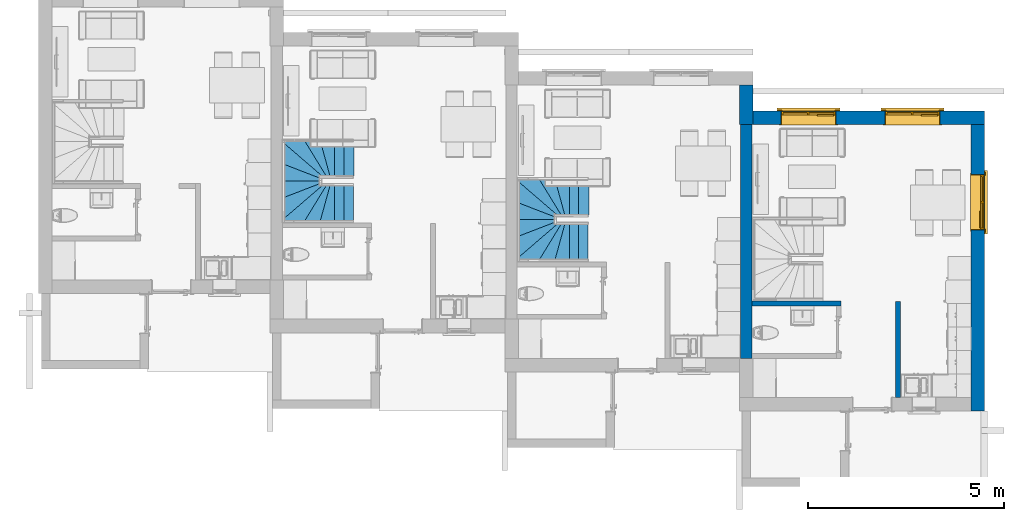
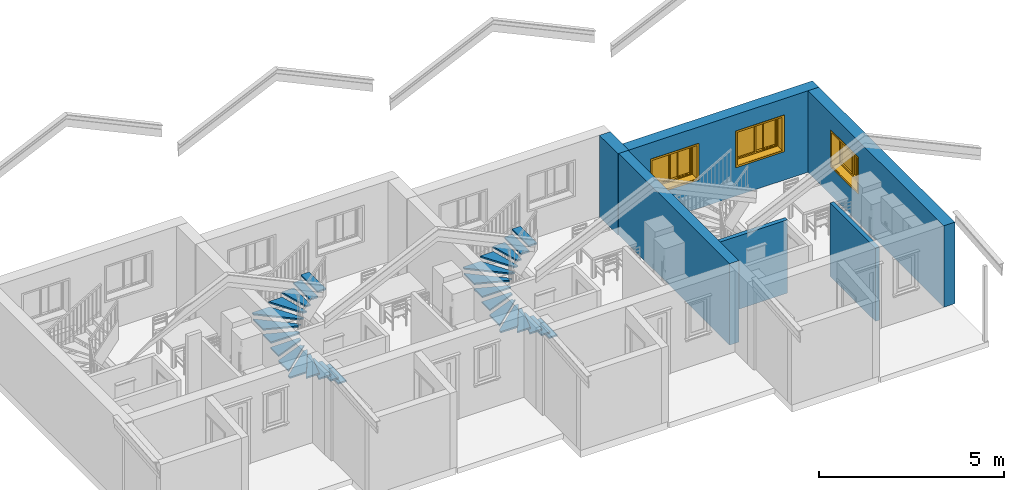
# One storey, part 23 of 65: 6 walls, 3 windows, 2 stair flights, 3 openings, 2 elements without a shape of their own.
"""IFC2X3 building model written with IfcOpenShell, lengths in millimetres."""

from ifc_helpers import new_model, entity, si_unit, converted_unit, direction, frame, frame_2d, origin, origin_2d_with_axis, place, context, subcontext, project, spatial, polyline, rectangle, outline, extrude, faceted_brep, source, transform, mapped, material, material_list, layer, layer_set, layer_usage, type_object, type_shapes, element, fill, aggregate, save


model = new_model("IFC2X3")

# Units and contexts
model_context = context("Model", 3, precision=0.01, world=origin(), true_north=direction((0.0, 1.0)))
body_context = subcontext(model_context, "Body", "Model", "MODEL_VIEW")
ifc_project = project(units=[si_unit("LENGTHUNIT", "METRE", prefix="MILLI"), si_unit("AREAUNIT", "SQUARE_METRE"), si_unit("VOLUMEUNIT", "CUBIC_METRE"), converted_unit("PLANEANGLEUNIT", "DEGREE", entity("IfcPlaneAngleMeasure", 0.017453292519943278), si_unit("PLANEANGLEUNIT", "RADIAN"), dimensions=[0, 0, 0, 0, 0, 0, 0])], contexts=[model_context])

# Site, building, storey
site_placement = place(None, origin())
site = spatial("IfcSite", under=ifc_project, at=site_placement, Name="Default", CompositionType="ELEMENT")
building_placement = place(site_placement, origin())
building = spatial("IfcBuilding", under=site, at=building_placement, CompositionType="ELEMENT")
storey_placement = place(building_placement, origin())
storey = spatial("IfcBuildingStorey", under=building, at=storey_placement, Name="Et. 1", CompositionType="ELEMENT", Elevation=0.0)

# Wall
ifc_material_1 = material(Name="Vegg - Stående Kledning_smal - HVIT")
ifc_layer_1 = layer(ifc_material_1, 19.0)
ifc_material_2 = material(Name="Vegg - Utlekting")
ifc_layer_2 = layer(ifc_material_2, 36.0)
ifc_layer_3 = layer(ifc_material_2, 23.0)
ifc_material_3 = material(Name="Vegg - Gips - GU")
ifc_layer_4 = layer(ifc_material_3, 9.0)
ifc_material_4 = material(Name="Vegg - Stender - Isolert")
ifc_layer_5 = layer(ifc_material_4, 198.0)
ifc_material_5 = material(Name="Vegg - Påforing - Isolert")
ifc_layer_6 = layer(ifc_material_5, 48.0)
ifc_material_6 = material(Name="Vegg - Gips - Hvit")
ifc_layer_7 = layer(ifc_material_6, 13.000000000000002)
ifc_layer_set_1 = layer_set([ifc_layer_1, ifc_layer_2, ifc_layer_3, ifc_layer_4, ifc_layer_5, ifc_layer_6, ifc_layer_7], Name="Basic Wall:23-Kv(sm)TIG-19_36_23_9_198_48_13")
ifc_layer_usage_1 = layer_usage(ifc_layer_set_1, "AXIS2", "NEGATIVE", 173.0)
wall_type_1 = type_object("IfcWallType", Name="Basic Wall:23-Kv(sm)TIG-19_36_23_9_198_48_13", PredefinedType="STANDARD", material=ifc_layer_set_1)
wall_1_placement = place(storey_placement, frame((28178.009586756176, 16736.18095768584, 0.0), z_axis=(0.0, 0.0, 1.0), x_axis=(0.0, -1.0, 0.0)))
element("IfcWallStandardCase", 1, at=wall_1_placement, inside=storey, type_object=wall_type_1, material=ifc_layer_usage_1, Name="Basic Wall:23-Kv(sm)TIG-19_36_23_9_198_48_13", context=body_context, shape_type="SweptSolid", body=[
    extrude(rectangle(XDim=1000.0000000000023, YDim=345.9999999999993, at=frame_2d((500.00000000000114, 0.0), x_axis=(-1.0, 0.0))), origin(), (0.0, 0.0, 1.0), 2681.0),
])

# Wall, openings, windows
ifc_layer_usage_2 = layer_usage(ifc_layer_set_1, "AXIS2", "NEGATIVE", 173.0)
wall_2_placement = place(storey_placement, frame((28351.009586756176, 15909.180957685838, 0.0)))
wall_2 = element("IfcWallStandardCase", 2, at=wall_2_placement, inside=storey, type_object=wall_type_1, material=ifc_layer_usage_2, Name="Basic Wall:23-Kv(sm)TIG-19_36_23_9_198_48_13", context=body_context, shape_type="SweptSolid", body=[
    extrude(rectangle(XDim=5913.999999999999, YDim=345.9999999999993, at=frame_2d((2956.9999999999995, 2.984279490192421e-13), x_axis=(-1.0, 0.0))), origin(), (0.0, 0.0, 1.0), 2681.0),
])
opening_1_placement = place(wall_2_placement, frame((3371.0, -173.0, 990.0)))
opening_1 = element("IfcOpeningElement", 3, at=opening_1_placement, cuts=wall_2, Name="2 ruter vert-post åpning-fast m omramming:14x11M:1", ObjectType="Opening", context=body_context, shape_type="SweptSolid", body=[
    extrude(rectangle(XDim=1410.0000000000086, YDim=1109.9999999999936, at=frame_2d((554.9999999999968, 705.0000000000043), x_axis=(0.0, -1.0))), frame((0.0, 0.0, 0.0), z_axis=(0.0, 1.0, 0.0), x_axis=(0.0, 0.0, 1.0)), (0.0, 0.0, 1.0), 346.0),
])
opening_2_placement = place(wall_2_placement, frame((713.0, -173.0, 990.0)))
opening_2 = element("IfcOpeningElement", 4, at=opening_2_placement, cuts=wall_2, Name="2 ruter vert-post åpning-fast m omramming:14x11M:1", ObjectType="Opening", context=body_context, shape_type="SweptSolid", body=[
    extrude(rectangle(XDim=1410.0000000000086, YDim=1109.9999999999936, at=frame_2d((554.9999999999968, 705.0000000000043), x_axis=(0.0, -1.0))), frame((0.0, 0.0, 0.0), z_axis=(0.0, 1.0, 0.0), x_axis=(0.0, 0.0, 1.0)), (0.0, 0.0, 1.0), 346.0),
])
ifc_material_7 = material(Name="Omramming")
ifc_material_8 = material(Name="Glass - Klart")
ifc_material_9 = material(Name="Karm")
ifc_material_list = material_list([ifc_material_7, ifc_material_8, ifc_material_9])
window_style = type_object("IfcWindowStyle", Name="2 ruter vert-post åpning-fast m omramming:14x11M", ConstructionType="NOTDEFINED", OperationType="NOTDEFINED", ParameterTakesPrecedence=False, Sizeable=False, material=ifc_material_list)
shared_shape = source(origin(), body_context, "Body", "Brep", [
    faceted_brep([(-73.0, 368.0, 1199.153701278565), (25.0, 368.0, 1199.153701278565), (25.0, 368.0, 4.105117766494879), (-73.0, 368.0, 4.105117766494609), (1385.0, 346.0, -110.0), (1483.0, 346.0, -110.0), (1483.0, 346.0, -12.776075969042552), (1513.0, 346.0, -12.776075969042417), (1513.0, 346.0, 10.0), (1483.0, 346.0, 10.0), (1483.0, 346.0, 1199.153701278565), (1385.0, 346.0, 1199.153701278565), (1385.0, 346.0, 10.0), (25.0, 346.0, 10.0), (25.0, 346.0, 1199.153701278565), (-73.0, 346.0, 1199.153701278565), (-73.0, 346.0, 10.0), (-103.0, 346.0, 10.0), (-103.0, 346.0, -12.776075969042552), (-73.0, 346.0, -12.776075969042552), (-73.0, 346.0, -110.0), (25.0, 346.0, -110.0), (25.0, 346.0, -12.776075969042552), (1385.0, 346.0, -12.776075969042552), (1483.0, 368.0, 1199.153701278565), (1385.0, 368.0, 1199.153701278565), (1483.0, 368.0, 4.105117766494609), (1385.0, 368.0, -110.0), (1483.0, 368.0, -110.0), (1385.0, 368.0, 4.105117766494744), (-73.0, 368.0, -110.0), (25.0, 368.0, -110.0), (-103.0, 413.6148078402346, -30.89340912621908), (-103.0, 419.3088268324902, -9.643040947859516), (1513.0, 413.6148078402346, -30.89340912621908), (1513.0, 419.3088268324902, -9.643040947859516), (1483.0, 368.0, -18.670958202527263), (1385.0, 368.0, -18.670958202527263), (25.0, 368.0, -18.670958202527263), (-73.0, 368.0, -18.670958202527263)], [[[0, 1, 2, 3]], [[4, 5, 6, 7, 8, 9, 10, 11, 12, 13, 14, 15, 16, 17, 18, 19, 20, 21, 22, 23]], [[24, 25, 11, 10]], [[24, 10, 9, 26]], [[27, 28, 5, 4]], [[11, 25, 29, 12]], [[1, 0, 15, 14]], [[1, 14, 13, 2]], [[30, 31, 21, 20]], [[15, 0, 3, 16]], [[32, 18, 17, 33]], [[34, 35, 8, 7]], [[18, 32, 34, 7, 6, 36, 37, 23, 22, 38, 39, 19]], [[33, 17, 16, 3, 2, 13, 12, 29, 26, 9, 8, 35]], [[32, 33, 35, 34]], [[30, 20, 19, 39]], [[21, 31, 38, 22]], [[27, 4, 23, 37]], [[5, 28, 36, 6]], [[31, 30, 39, 38]], [[25, 24, 26, 29]], [[28, 27, 37, 36]]]),
    faceted_brep([(1513.0, 413.52687511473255, 1180.8011105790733), (1513.0, 418.4444369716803, 1199.153701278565), (1513.0, 346.0, 1218.5651296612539), (1513.0, 346.0, 1198.894882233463), (-103.0, 413.52687511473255, 1180.8011105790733), (-103.0, 346.0, 1198.894882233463), (-103.0, 346.0, 1218.5651296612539), (-103.0, 418.4444369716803, 1199.153701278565)], [[[0, 1, 2, 3]], [[4, 5, 6, 7]], [[1, 0, 4, 7]], [[2, 1, 7, 6]], [[3, 2, 6, 5]], [[0, 3, 5, 4]]]),
    faceted_brep([(25.0, 368.0, 1193.0), (1385.0, 368.0, 1193.0), (1385.0, 368.0, 1095.0), (25.0, 368.0, 1095.0), (25.0, 346.0, 1193.0), (25.0, 346.0, 1095.0), (1385.0, 346.0, 1095.0), (1385.0, 346.0, 1193.0)], [[[0, 1, 2, 3]], [[4, 5, 6, 7]], [[1, 0, 4, 7]], [[2, 1, 7, 6]], [[3, 2, 6, 5]], [[0, 3, 5, 4]]]),
    faceted_brep([(1385.0, 368.0, -20.0), (25.0, 368.0, -20.0), (25.0, 346.0, -20.0), (1385.0, 346.0, -20.0), (1385.0, 368.0, -92.0), (1385.0, 346.0, -92.0), (25.0, 368.0, -92.0), (25.0, 346.0, -92.0)], [[[0, 1, 2, 3]], [[4, 0, 3, 5]], [[6, 4, 5, 7]], [[1, 6, 7, 2]], [[2, 7, 5, 3]], [[1, 0, 4, 6]]]),
    faceted_brep([(1345.0, 288.49999999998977, 65.0), (1345.0, 288.4999999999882, 1045.0), (735.0, 288.4999999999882, 1045.0), (735.0, 288.49999999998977, 65.0), (1345.0, 313.49999999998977, 65.0), (735.0, 313.49999999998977, 65.0), (735.0, 313.4999999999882, 1045.0), (1345.0, 313.4999999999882, 1045.0)], [[[0, 1, 2, 3]], [[4, 5, 6, 7]], [[1, 0, 4, 7]], [[2, 1, 7, 6]], [[3, 2, 6, 5]], [[0, 3, 5, 4]]]),
    faceted_brep([(720.0, 331.0, 50.0), (720.0, 331.0, 1060.0), (720.0, 239.0, 1060.0), (720.0, 239.0, 50.0), (1400.0, 239.0, 10.0), (1400.0, 239.0, 1100.0), (10.0, 239.0, 1100.0), (10.0, 239.0, 10.0), (680.0, 239.0, 1060.0), (680.0, 239.0, 50.0), (50.0, 239.0, 50.0), (50.0, 239.0, 1060.0), (925.0, 239.0, 1060.0), (1360.0, 239.0, 1060.0), (1360.0, 239.0, 50.0), (925.0, 239.0, 50.0), (680.0, 331.0, 1060.0), (680.0, 331.0, 50.0), (1360.0, 331.0, 50.0), (1360.0, 331.0, 1060.0), (50.0, 331.0, 1060.0), (50.0, 331.0, 50.0), (1400.0, 331.0, 1100.0), (1400.0, 331.0, 10.0), (10.0, 331.0, 10.0), (10.0, 331.0, 1100.0), (1360.0, 248.0, 50.0), (1360.0, 248.0, 1060.0), (925.0, 248.0, 1060.0), (940.0, 216.0, 65.0), (940.0, 248.0, 65.0), (940.0, 248.0, 1045.0), (940.0, 216.0, 1045.0), (1345.0, 248.0, 1045.0), (1345.0, 216.0, 1045.0), (1345.0, 248.0, 65.0), (1345.0, 216.0, 65.0), (925.0, 248.0, 50.0), (925.0, 216.0, 50.0), (925.0, 216.0, 1060.0), (1360.0, 216.0, 1060.0), (1360.0, 216.0, 50.0)], [[[0, 1, 2, 3]], [[4, 5, 6, 7], [8, 9, 10, 11], [3, 2, 12, 13, 14, 15]], [[9, 8, 16, 17]], [[1, 0, 18, 19], [17, 16, 20, 21], [22, 23, 24, 25]], [[4, 23, 22, 5]], [[19, 18, 26, 27]], [[5, 22, 25, 6]], [[1, 19, 27, 28, 12, 2]], [[6, 25, 24, 7]], [[20, 11, 10, 21]], [[23, 4, 7, 24]], [[21, 10, 9, 17]], [[29, 30, 31, 32]], [[32, 31, 33, 34]], [[34, 33, 35, 36]], [[30, 29, 36, 35]], [[31, 30, 35, 33], [37, 28, 27, 26]], [[38, 39, 12, 28, 37, 15]], [[39, 40, 13, 12]], [[40, 41, 14, 13]], [[29, 32, 34, 36], [39, 38, 41, 40]], [[41, 38, 15, 14]], [[18, 0, 3, 15, 37, 26]], [[11, 20, 16, 8]]], outer=[[True], [True, False, False], [True], [False, False, True], [True], [True], [True], [True], [True], [True], [True], [True], [True], [True], [True], [True], [False, True], [True], [True], [True], [False, True], [True], [True], [True]]),
    faceted_brep([(680.0, 288.49999999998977, 50.0), (680.0, 288.4999999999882, 1060.0), (50.0, 288.4999999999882, 1060.0), (50.0, 288.49999999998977, 50.0), (680.0, 313.49999999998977, 50.0), (50.0, 313.49999999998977, 50.0), (50.0, 313.4999999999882, 1060.0), (680.0, 313.4999999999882, 1060.0)], [[[0, 1, 2, 3]], [[4, 5, 6, 7]], [[1, 0, 4, 7]], [[2, 1, 7, 6]], [[3, 2, 6, 5]], [[0, 3, 5, 4]]]),
    faceted_brep([(1410.0, 239.0, 1110.0), (1410.0, 239.0, 0.0), (0.0, 239.0, 0.0), (0.0, 239.0, 1110.0), (10.0, 239.0, 10.0), (1400.0, 239.0, 10.0), (1400.0, 239.0, 1100.0), (10.0, 239.0, 1100.0), (1410.0, 0.0, 1110.0), (0.0, 0.0, 1110.0), (0.0, 0.0, 0.0), (1410.0, 0.0, 0.0), (10.0, 0.0, 10.0), (10.0, 0.0, 1100.0), (1400.0, 0.0, 1100.0), (1400.0, 0.0, 10.0)], [[[0, 1, 2, 3], [4, 5, 6, 7]], [[8, 9, 10, 11], [12, 13, 14, 15]], [[1, 0, 8, 11]], [[2, 1, 11, 10]], [[3, 2, 10, 9]], [[0, 3, 9, 8]], [[5, 4, 12, 15]], [[6, 5, 15, 14]], [[7, 6, 14, 13]], [[4, 7, 13, 12]]]),
    faceted_brep([(1405.0, -12.0, 1105.0), (1405.0, 0.0, 1105.0), (1405.0, 0.0, 5.0), (1405.0, -12.0, 5.0), (1457.0, 0.0, 1157.0), (1457.0, -12.0, 1157.0), (1457.0, -12.0, -47.0), (1457.0, 0.0, -47.0), (5.0, 0.0, 5.0), (5.0, -12.0, 5.0), (-47.0, -12.0, -47.0), (-47.0, 0.0, -47.0), (5.0, 0.0, 1105.0), (5.0, -12.0, 1105.0), (-47.0, -12.0, 1157.0), (-47.0, 0.0, 1157.0)], [[[0, 1, 2, 3]], [[4, 5, 6, 7]], [[3, 2, 8, 9]], [[7, 6, 10, 11]], [[9, 8, 12, 13]], [[11, 10, 14, 15]], [[7, 11, 15, 4], [1, 12, 8, 2]], [[13, 12, 1, 0]], [[3, 9, 13, 0], [5, 14, 10, 6]], [[15, 14, 5, 4]]], outer=[[True], [True], [True], [True], [True], [True], [True, False], [True], [False, True], [True]]),
])
type_shapes(window_style, [shared_shape])
window_1_placement = place(opening_1_placement, origin())
window_1 = element("IfcWindow", 5, at=window_1_placement, inside=storey, type_object=window_style, material=ifc_material_list, Name="2 ruter vert-post åpning-fast m omramming:14x11M", OverallHeight=1109.9999999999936, OverallWidth=1410.0000000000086, context=body_context, shape_type="MappedRepresentation", body=[
    mapped(shared_shape, transform((0.0, 0.0, 0.0), scale=1.0)),
])
fill(opening_1, window_1)
window_2_placement = place(opening_2_placement, origin())
window_2 = element("IfcWindow", 6, at=window_2_placement, inside=storey, type_object=window_style, material=ifc_material_list, Name="2 ruter vert-post åpning-fast m omramming:14x11M", OverallHeight=1109.9999999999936, OverallWidth=1410.0000000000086, context=body_context, shape_type="MappedRepresentation", body=[
    mapped(shared_shape, transform((0.0, 0.0, 0.0), scale=1.0)),
])
fill(opening_2, window_2)

# Wall, opening, window
ifc_layer_usage_3 = layer_usage(ifc_layer_set_1, "AXIS2", "NEGATIVE", 173.0)
wall_3_placement = place(storey_placement, frame((34092.009586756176, 15736.180957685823, 0.0), z_axis=(0.0, 0.0, 1.0), x_axis=(0.0, -1.0, 0.0)))
wall_3 = element("IfcWallStandardCase", 7, at=wall_3_placement, inside=storey, type_object=wall_type_1, material=ifc_layer_usage_3, Name="Basic Wall:23-Kv(sm)TIG-19_36_23_9_198_48_13", context=body_context, shape_type="SweptSolid", body=[
    extrude(rectangle(XDim=7328.000000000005, YDim=345.9999999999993, at=frame_2d((3664.000000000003, 3.126388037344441e-13), x_axis=(-1.0, 0.0))), origin(), (0.0, 0.0, 1.0), 2681.0),
])
opening_3_placement = place(wall_3_placement, frame((1287.0, -173.0, 990.0)))
opening_3 = element("IfcOpeningElement", 8, at=opening_3_placement, cuts=wall_3, Name="2 ruter vert-post åpning-fast m omramming:14x11M:1", ObjectType="Opening", context=body_context, shape_type="SweptSolid", body=[
    extrude(rectangle(XDim=1410.0000000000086, YDim=1109.9999999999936, at=frame_2d((554.9999999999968, 705.0000000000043), x_axis=(0.0, -1.0))), frame((0.0, 0.0, 0.0), z_axis=(0.0, 1.0, 0.0), x_axis=(0.0, 0.0, 1.0)), (0.0, 0.0, 1.0), 346.0),
])
window_3_placement = place(opening_3_placement, origin())
window_3 = element("IfcWindow", 9, at=window_3_placement, inside=storey, type_object=window_style, material=ifc_material_list, Name="2 ruter vert-post åpning-fast m omramming:14x11M", OverallHeight=1109.9999999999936, OverallWidth=1410.0000000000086, context=body_context, shape_type="MappedRepresentation", body=[
    mapped(shared_shape, transform((0.0, 0.0, 0.0), scale=1.0)),
])
fill(opening_3, window_3)

# Walls
ifc_material_10 = material(Name="Vegg - Gips - Innvendig - Hvit")
ifc_layer_8 = layer(ifc_material_10, 13.000000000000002)
ifc_layer_9 = layer(ifc_material_10, 13.000000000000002)
ifc_layer_10 = layer(ifc_material_4, 100.0)
ifc_material_11 = material(Name="Vegg - Luftsjikt")
ifc_layer_11 = layer(ifc_material_11, 40.0)
ifc_layer_12 = layer(ifc_material_4, 100.0)
ifc_layer_13 = layer(ifc_material_10, 13.000000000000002)
ifc_layer_14 = layer(ifc_material_10, 13.000000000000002)
ifc_layer_set_2 = layer_set([ifc_layer_8, ifc_layer_9, ifc_layer_10, ifc_layer_11, ifc_layer_12, ifc_layer_13, ifc_layer_14], Name="Basic Wall:24-GSISIG-26_100_40_100_26")
ifc_layer_usage_4 = layer_usage(ifc_layer_set_2, "AXIS2", "NEGATIVE", 146.00000000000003)
wall_type_2 = type_object("IfcWallType", Name="Basic Wall:24-GSISIG-26_100_40_100_26", PredefinedType="STANDARD", material=ifc_layer_set_2)
wall_4_placement = place(storey_placement, frame((28178.009586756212, 9754.180957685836, 0.0), z_axis=(0.0, 0.0, 1.0), x_axis=(0.0, 1.0, 0.0)))
element("IfcWallStandardCase", 10, at=wall_4_placement, inside=storey, type_object=wall_type_2, material=ifc_layer_usage_4, Name="Basic Wall:24-GSISIG-26_100_40_100_26", context=body_context, shape_type="SweptSolid", body=[
    extrude(rectangle(XDim=5982.000000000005, YDim=292.00000000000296, at=frame_2d((2991.0000000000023, 3.836930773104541e-13), x_axis=(-1.0, 0.0))), origin(), (0.0, 0.0, 1.0), 2681.0),
])
ifc_layer_15 = layer(ifc_material_10, 13.000000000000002)
ifc_material_12 = material(Name="Vegg - Stender - Stål - Isolert")
ifc_layer_16 = layer(ifc_material_12, 100.0)
ifc_layer_17 = layer(ifc_material_10, 13.000000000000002)
ifc_layer_set_3 = layer_set([ifc_layer_15, ifc_layer_16, ifc_layer_17], Name="Basic Wall:24-GSIG-13_100_13")
ifc_layer_usage_5 = layer_usage(ifc_layer_set_3, "AXIS2", "NEGATIVE", 63.00000000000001)
wall_type_3 = type_object("IfcWallType", Name="Basic Wall:24-GSIG-13_100_13", PredefinedType="STANDARD", material=ifc_layer_set_3)
wall_5_placement = place(storey_placement, frame((28324.009586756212, 11156.05871915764, 0.0)))
element("IfcWallStandardCase", 11, at=wall_5_placement, inside=storey, type_object=wall_type_3, material=ifc_layer_usage_5, Name="Basic Wall:24-GSIG-13_100_13", context=body_context, shape_type="SweptSolid", body=[
    extrude(rectangle(XDim=2281.000000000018, YDim=126.00000000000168, at=frame_2d((1140.500000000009, -4.263256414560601e-14), x_axis=(-1.0, 0.0))), origin(), (0.0, 0.0, 1.0), 2413.0),
])
ifc_layer_usage_6 = layer_usage(ifc_layer_set_3, "AXIS2", "NEGATIVE", 63.00000000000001)
wall_6_placement = place(storey_placement, frame((32056.009586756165, 8754.180957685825, 0.0), z_axis=(0.0, 0.0, 1.0), x_axis=(0.0, 1.0, 0.0)))
element("IfcWallStandardCase", 12, at=wall_6_placement, inside=storey, type_object=wall_type_3, material=ifc_layer_usage_6, Name="Basic Wall:24-GSIG-13_100_13", context=body_context, shape_type="SweptSolid", body=[
    extrude(rectangle(XDim=2451.8777614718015, YDim=125.99999999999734, at=frame_2d((1225.9388807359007, 4.618527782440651e-14), x_axis=(-1.0, 0.0))), origin(), (0.0, 0.0, 1.0), 2413.0),
])

# Stair, stair flight
type_product = type_object("IfcTypeProduct", Name="Assembled Stair:Tretrapp - Åpne trinn m/ vanger")
stair_1_placement = place(storey_placement, origin())
stair_1 = element("IfcStair", 13, at=stair_1_placement, inside=storey, type_object=type_product, Name="Assembled Stair:Stair", ShapeType="NOTDEFINED")
ifc_material_13 = material(Name="Focus - Tre")
stair_flight_type = type_object("IfcStairFlightType", Name="Non-Monolithic Run:Tretrinn - 20mm Trinnese", PredefinedType="WINDER")
stair_flight_1_placement = place(stair_1_placement, origin())
stair_flight_1 = element("IfcStairFlight", 14, at=stair_flight_1_placement, type_object=stair_flight_type, material=ifc_material_13, Name="Assembled Stair:Stair:1075790 Run 1", NumberOfRiser=15, NumberOfTreads=14, RiserHeight=0.5863954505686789, TreadLength=0.7874015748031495, context=body_context, shape_type="SweptSolid", body=[
    extrude(rectangle(XDim=259.9999999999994, YDim=899.999999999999, at=frame_2d((-1.0800249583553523e-12, -1.0800249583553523e-12), x_axis=(1.0, 0.0))), frame((18004.55071241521, 13720.151787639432, 128.73333333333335)), (0.0, 0.0, 1.0), 50.0),
    extrude(rectangle(XDim=259.9999999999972, YDim=899.999999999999, at=origin_2d_with_axis()), frame((17764.55071241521, 13720.151787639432, 307.4666666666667)), (0.0, 0.0, 1.0), 50.0),
    extrude(outline(polyline([(-254.59179310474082, -450.0), (130.37399553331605, -450.0), (130.37399553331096, 450.0), (-6.156197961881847, 450.0), (-254.59179310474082, -450.0)])), frame((17524.1767168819, 13720.151787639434, 486.20000000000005)), (0.0, 0.0, 1.0), 50.0),
    extrude(outline(polyline([(-410.52986200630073, -450.0), (10.772636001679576, -450.0), (259.2082311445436, 450.0), (140.54899486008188, 450.0), (-410.52986200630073, -450.0)])), frame((17279.5602788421, 13720.151787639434, 664.9333333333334)), (0.0, 0.0, 1.0), 50.0),
    extrude(outline(polyline([(285.1710924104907, -504.905220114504), (378.70722689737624, -504.905220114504), (378.7072268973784, 13.519214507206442), (-521.2927731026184, 564.598071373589), (-521.2927731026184, 431.6931543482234), (285.1710924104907, -504.905220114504)])), frame((16878.962627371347, 13648.859014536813, 843.6666666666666), z_axis=(0.0, 0.0, 1.0), x_axis=(0.0, -1.0, 0.0)), (0.0, 0.0, 1.0), 50.0),
    extrude(outline(polyline([(69.66647185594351, -553.4499500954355), (624.5852128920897, -553.4499500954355), (-208.27121090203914, 413.79980038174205), (-208.27121090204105, 346.55004990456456), (-277.7092629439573, 346.55004990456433), (69.66647185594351, -553.4499500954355)])), frame((16927.507357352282, 13961.880576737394, 1022.4000000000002), z_axis=(0.0, 0.0, 1.0), x_axis=(0.0, -1.0, 0.0)), (0.0, 0.0, 1.0), 50.0),
    extrude(outline(polyline([(-132.84393359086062, -450.0), (306.53180106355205, -450.0), (-40.843933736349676, 450.0), (-132.8439337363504, 450.0), (-132.84393359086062, -450.0)])), frame((16824.057407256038, 14177.307853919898, 1201.1333333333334), z_axis=(0.0, 0.0, 1.0), x_axis=(0.0, -1.0, 0.0)), (0.0, 0.0, 1.0), 50.0),
    extrude(outline(polyline([(-307.2508269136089, -450.0), (133.56295974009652, -450.0), (133.56295959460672, 450.0), (40.12490757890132, 450.0), (-307.2508269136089, -450.0)])), frame((16824.05740725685, 14423.714747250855, 1379.8666666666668), z_axis=(0.0, 0.0, 1.0), x_axis=(0.0, -1.0, 0.0)), (0.0, 0.0, 1.0), 50.0),
    extrude(outline(polyline([(-637.1240384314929, -559.5802253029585), (-77.25079126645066, -559.5802253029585), (270.1249432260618, 340.41977469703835), (222.12494323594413, 340.41977469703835), (222.12494323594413, 438.320901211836), (-637.1240384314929, -559.5802253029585)])), frame((16933.637632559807, 14632.276730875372, 1558.6000000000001), z_axis=(0.0, 0.0, 1.0), x_axis=(0.0, -1.0, 0.0)), (0.0, 0.0, 1.0), 50.0),
    extrude(outline(polyline([(-21.459794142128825, -373.4287153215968), (520.4160652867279, -373.4287153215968), (520.4160652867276, -306.2851387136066), (-446.8336852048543, 526.5712846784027), (-572.5386512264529, 526.5712846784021), (-21.459794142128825, -373.4287153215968)])), frame((16894.473472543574, 14936.723072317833, 1737.3333333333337), z_axis=(0.0, 0.0, 1.0), x_axis=(-1.0, 0.0, 0.0)), (0.0, 0.0, 1.0), 50.0),
    extrude(outline(polyline([(-9.42091897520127, -450.0), (409.17814513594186, -450.0), (-141.90071194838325, 450.0), (-257.8565142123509, 450.0), (-9.42091897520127, -450.0)])), frame((17301.659986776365, 14860.15178763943, 1916.0666666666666), z_axis=(0.0, 0.0, 1.0), x_axis=(-1.0, 0.0, 0.0)), (0.0, 0.0, 1.0), 50.0),
    extrude(outline(polyline([(-130.0, -450.0), (254.21779761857, -450.0), (5.782202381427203, 450.0), (-130.0, 450.0), (-130.0, -450.0)])), frame((17544.550712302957, 14860.151787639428, 2094.8), z_axis=(0.0, 0.0, 1.0), x_axis=(-1.0, 0.0, 0.0)), (0.0, 0.0, 1.0), 50.0),
    extrude(rectangle(XDim=260.00000000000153, YDim=899.999999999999, at=frame_2d((0.0, 1.0800249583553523e-12), x_axis=(1.0, 0.0))), frame((17784.550712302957, 14860.151787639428, 2273.5333333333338), z_axis=(0.0, 0.0, 1.0), x_axis=(-1.0, 0.0, 0.0)), (0.0, 0.0, 1.0), 50.0),
    extrude(rectangle(XDim=260.00000000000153, YDim=899.999999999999, at=frame_2d((0.0, 1.0800249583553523e-12), x_axis=(1.0, 0.0))), frame((18024.550712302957, 14860.151787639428, 2452.266666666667), z_axis=(0.0, 0.0, 1.0), x_axis=(-1.0, 0.0, 0.0)), (0.0, 0.0, 1.0), 50.0),
])
aggregate(stair_1, [stair_flight_1])

stair_2_placement = place(storey_placement, origin())
stair_2 = element("IfcStair", 15, at=stair_2_placement, inside=storey, type_object=type_product, Name="Assembled Stair:Stair", ShapeType="NOTDEFINED")
stair_flight_2_placement = place(stair_2_placement, origin())
stair_flight_2 = element("IfcStairFlight", 16, at=stair_flight_2_placement, type_object=stair_flight_type, material=ifc_material_13, Name="Assembled Stair:Stair:1075997 Run 1", NumberOfRiser=15, NumberOfTreads=14, RiserHeight=0.5863954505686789, TreadLength=0.7874015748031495, context=body_context, shape_type="SweptSolid", body=[
    extrude(rectangle(XDim=259.99999999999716, YDim=899.999999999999, at=frame_2d((2.1742607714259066e-12, 1.0800249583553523e-12), x_axis=(1.0, 0.0))), frame((24005.14276318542, 12731.445077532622, 128.73333333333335)), (0.0, 0.0, 1.0), 50.0),
    extrude(rectangle(XDim=260.00000000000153, YDim=899.999999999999, at=origin_2d_with_axis()), frame((23765.142763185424, 12731.445077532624, 307.4666666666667)), (0.0, 0.0, 1.0), 50.0),
    extrude(outline(polyline([(-254.59179310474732, -450.0), (130.3739955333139, -450.0), (130.3739955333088, 450.0), (-6.156197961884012, 450.0), (-254.59179310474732, -450.0)])), frame((23524.768767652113, 12731.445077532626, 486.20000000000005)), (0.0, 0.0, 1.0), 50.0),
    extrude(outline(polyline([(-410.5298620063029, -450.0), (10.772636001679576, -450.0), (259.20823114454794, 450.0), (140.54899486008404, 450.0), (-410.5298620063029, -450.0)])), frame((23280.15232961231, 12731.445077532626, 664.9333333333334)), (0.0, 0.0, 1.0), 50.0),
    extrude(outline(polyline([(285.17109241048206, -504.90522011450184), (378.70722689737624, -504.90522011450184), (378.7072268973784, 13.519214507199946), (-521.2927731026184, 564.5980713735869), (-521.2927731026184, 431.69315434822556), (285.17109241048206, -504.90522011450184)])), frame((22879.55467814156, 12660.152304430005, 843.6666666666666), z_axis=(0.0, 0.0, 1.0), x_axis=(0.0, -1.0, 0.0)), (0.0, 0.0, 1.0), 50.0),
    extrude(outline(polyline([(69.66647185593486, -553.4499500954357), (624.5852128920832, -553.4499500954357), (-208.27121090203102, 413.799800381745), (-208.27121090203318, 346.5500499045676), (-277.70926294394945, 346.5500499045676), (69.66647185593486, -553.4499500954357)])), frame((22928.099408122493, 12973.173866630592, 1022.4000000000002), z_axis=(0.0, 0.0, 1.0), x_axis=(0.0, -1.0, 0.0)), (0.0, 0.0, 1.0), 50.0),
    extrude(outline(polyline([(-132.84393359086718, -450.0), (306.5318010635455, -450.0), (-40.843933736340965, 450.0), (-132.84393373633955, 450.0), (-132.84393359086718, -450.0)])), frame((22824.649458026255, 13188.601143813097, 1201.1333333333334), z_axis=(0.0, 0.0, 1.0), x_axis=(0.0, -1.0, 0.0)), (0.0, 0.0, 1.0), 50.0),
    extrude(outline(polyline([(-307.2508269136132, -450.0), (133.56295974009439, -450.0), (133.56295959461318, 450.0), (40.124907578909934, 450.0), (-307.2508269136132, -450.0)])), frame((22824.64945802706, 13435.008037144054, 1379.8666666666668), z_axis=(0.0, 0.0, 1.0), x_axis=(0.0, -1.0, 0.0)), (0.0, 0.0, 1.0), 50.0),
    extrude(outline(polyline([(-637.1240384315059, -559.5802253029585), (-77.25079126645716, -559.5802253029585), (270.1249432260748, 340.4197746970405), (222.12494323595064, 340.41977469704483), (222.12494323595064, 438.320901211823), (-637.1240384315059, -559.5802253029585)])), frame((22934.22968333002, 13643.570020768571, 1558.6000000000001), z_axis=(0.0, 0.0, 1.0), x_axis=(0.0, -1.0, 0.0)), (0.0, 0.0, 1.0), 50.0),
    extrude(outline(polyline([(-21.45979414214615, -373.4287153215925), (520.4160652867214, -373.4287153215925), (520.416065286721, -306.2851387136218), (-446.83368520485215, 526.571284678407), (-572.5386512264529, 526.5712846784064), (-21.45979414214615, -373.4287153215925)])), frame((22895.06552331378, 13948.01636221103, 1737.3333333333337), z_axis=(0.0, 0.0, 1.0), x_axis=(-1.0, 0.0, 0.0)), (0.0, 0.0, 1.0), 50.0),
    extrude(outline(polyline([(-9.4209189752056, -450.0), (409.1781451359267, -450.0), (-141.90071194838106, 450.0), (-257.8565142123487, 450.0), (-9.4209189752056, -450.0)])), frame((23302.252037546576, 13871.445077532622, 1916.0666666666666), z_axis=(0.0, 0.0, 1.0), x_axis=(-1.0, 0.0, 0.0)), (0.0, 0.0, 1.0), 50.0),
    extrude(outline(polyline([(-130.0, -450.0), (254.21779761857, -450.0), (5.782202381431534, 450.0), (-130.0, 450.0), (-130.0, -450.0)])), frame((23545.142763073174, 13871.44507753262, 2094.8), z_axis=(0.0, 0.0, 1.0), x_axis=(-1.0, 0.0, 0.0)), (0.0, 0.0, 1.0), 50.0),
    extrude(rectangle(XDim=260.00000000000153, YDim=899.999999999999, at=frame_2d((0.0, 1.0800249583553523e-12), x_axis=(1.0, 0.0))), frame((23785.142763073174, 13871.44507753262, 2273.5333333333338), z_axis=(0.0, 0.0, 1.0), x_axis=(-1.0, 0.0, 0.0)), (0.0, 0.0, 1.0), 50.0),
    extrude(rectangle(XDim=260.00000000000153, YDim=899.999999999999, at=frame_2d((0.0, 1.0800249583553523e-12), x_axis=(1.0, 0.0))), frame((24025.14276307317, 13871.44507753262, 2452.266666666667), z_axis=(0.0, 0.0, 1.0), x_axis=(-1.0, 0.0, 0.0)), (0.0, 0.0, 1.0), 50.0),
])
aggregate(stair_2, [stair_flight_2])

save(model, "model.ifc")
